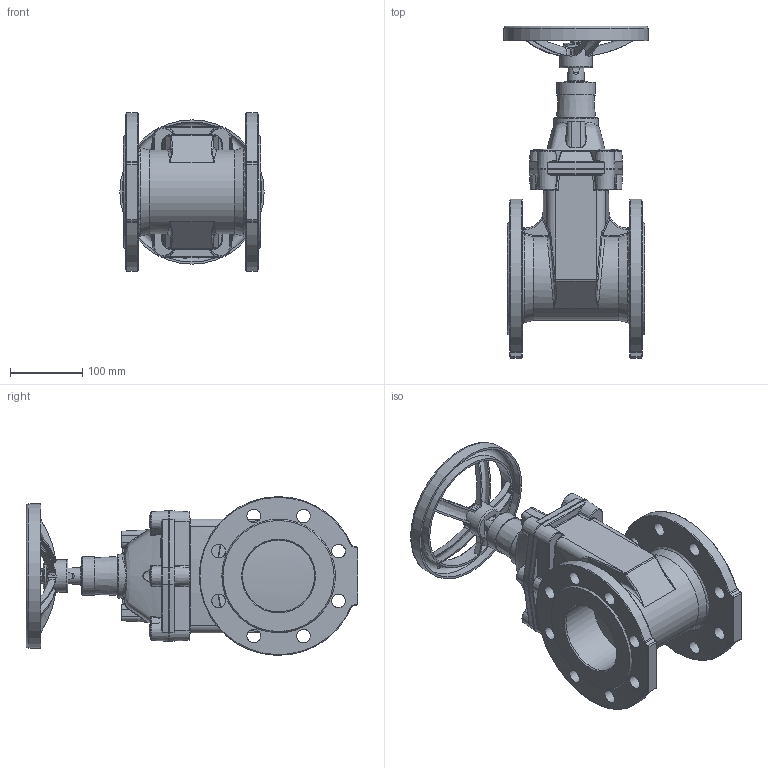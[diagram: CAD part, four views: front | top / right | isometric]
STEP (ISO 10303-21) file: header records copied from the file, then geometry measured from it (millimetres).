
FILE_DESCRIPTION (( 'STEP AP203' ), '1' );
FILE_NAME ('20.DN100.STEP', '2013-01-17T09:23:50', ( 'luca.saino' ), ( 'Hewlett-Packard Company' ), 'SwSTEP 2.0', 'SolidWorks 2012', '' );
FILE_SCHEMA (( 'CONFIG_CONTROL_DESIGN' ));
Products named in the file (1): 20.DN100
Bounding box: 200 x 460 x 219.94 mm (x, y, z)
Volume: 4784854.7 mm3; surface area: 495259.8 mm2
Topology: 1 solids, 23 shells, 1583 faces, 3856 edges, 2272 vertices
Faces by surface type: cylinder 464, bspline 420, plane 395, torus 168, cone 98, sphere 38
Full cylindrical faces by diameter (mm): 6 x2, 6.8 x1, 8 x1, 8.4 x1, 8.5 x6, 10 x6, 10.2 x6, 11 x1, 12 x6, 13 x6, 16 x1, 18 x6, 19 x16, 20 x6, 22.5 x6, 23.5 x2, 36 x1, 45 x1, 54 x1, 100 x2, 160 x1, 166 x1, 194 x1, 200 x1
Entity records: 76589 total; most frequent: CARTESIAN_POINT 44564, ORIENTED_EDGE 7022, DIRECTION 5843, EDGE_CURVE 3511, AXIS2_PLACEMENT_3D 2304, VERTEX_POINT 2158, EDGE_LOOP 1835, FACE_OUTER_BOUND 1689
